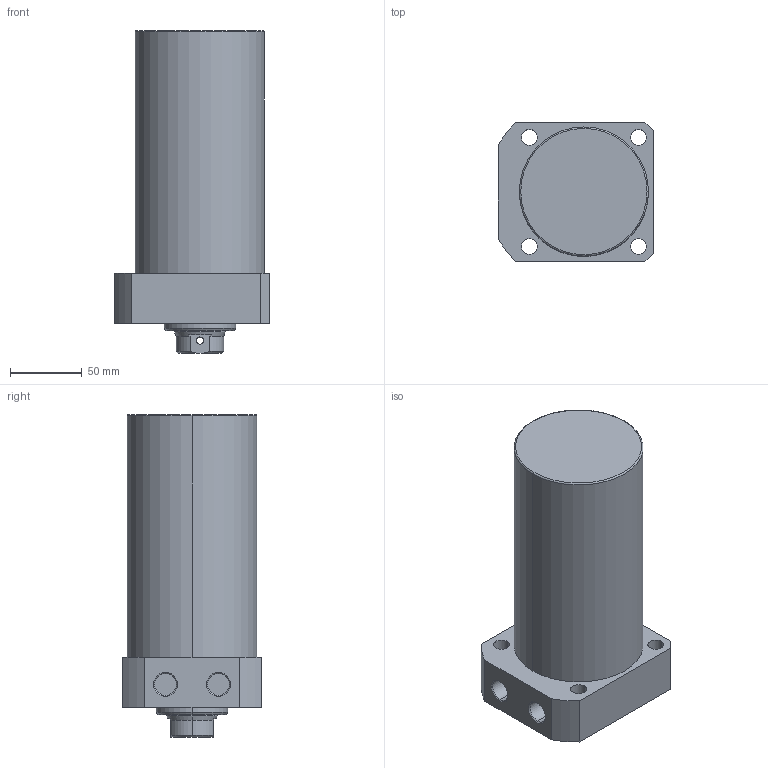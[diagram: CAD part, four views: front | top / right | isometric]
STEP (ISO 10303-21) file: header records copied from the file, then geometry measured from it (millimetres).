
FILE_DESCRIPTION (( 'STEP AP203' ), '1' );
FILE_NAME ('CLLR-090CB-125.STEP', '2019-12-18T06:17:31', ( '' ), ( '' ), 'SwSTEP 2.0', 'SolidWorks 2015', '' );
FILE_SCHEMA (( 'CONFIG_CONTROL_DESIGN' ));
Length unit declared in the file: millimetre
Products named in the file (1): CLLR-090CB-125
Bounding box: 108 x 97 x 225 mm (x, y, z)
Volume: 1423788 mm3; surface area: 92994.2 mm2
Topology: 1 solids, 1 shells, 69 faces, 163 edges, 102 vertices
Faces by surface type: cylinder 33, plane 19, cone 15, torus 2
Entity records: 2229 total; most frequent: CARTESIAN_POINT 497, DIRECTION 370, ORIENTED_EDGE 322, EDGE_CURVE 161, AXIS2_PLACEMENT_3D 151, VERTEX_POINT 102, EDGE_LOOP 89, CIRCLE 81
